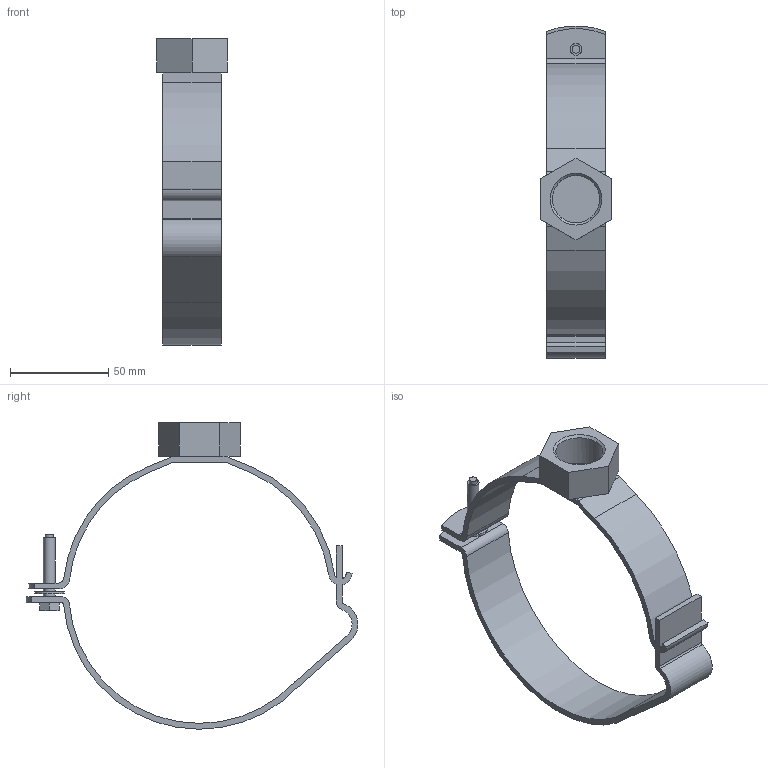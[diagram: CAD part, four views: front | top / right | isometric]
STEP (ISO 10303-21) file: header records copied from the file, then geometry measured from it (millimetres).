
FILE_DESCRIPTION( ( 'STEP AP214' ), '1' );
FILE_NAME( 'C:/Users/ilukic/Documents/ex/gebaudeentwasserung/pe/pipe bracket G3_4 adjustable/368842.stp', '2020-03-26T18:42:07', ( '' ), ( '' ), ' ', 'PARTsolutions', ' ' );
FILE_SCHEMA( ( 'AUTOMOTIVE_DESIGN { 1 0 10303 214 1 1 1 1 }' ) );
Length unit declared in the file: millimetre
Products named in the file (1): _368842
Bounding box: 36 x 169.18 x 156.2 mm (x, y, z)
Volume: 56888.4 mm3; surface area: 37822.8 mm2
Topology: 1 solids, 1 shells, 72 faces, 197 edges, 130 vertices
Faces by surface type: plane 39, cylinder 32, cone 1
Full cylindrical faces by diameter (mm): 4 x1, 6 x3, 15 x1, 24.117 x1
Entity records: 2848 total; most frequent: DIRECTION 402, CARTESIAN_POINT 389, ORIENTED_EDGE 376, EDGE_CURVE 188, AXIS2_PLACEMENT_3D 141, VERTEX_POINT 128, LINE 120, VECTOR 120
